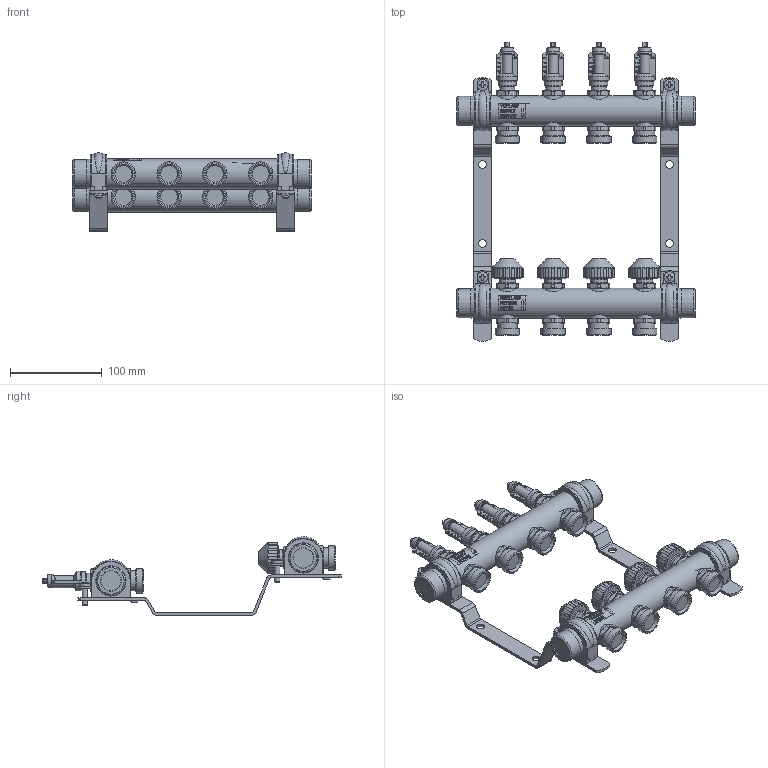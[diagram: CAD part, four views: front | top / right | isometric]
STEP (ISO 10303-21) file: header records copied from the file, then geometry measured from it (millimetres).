
FILE_DESCRIPTION((''),'2;1');
FILE_NAME('C:\Users\duckj\Desktop\10026186.stp','2016-10-27T14:03:04',('duckj'),(''),'Autodesk Inventor 2013','Autodesk Inventor 2013','');
FILE_SCHEMA(('CONFIG_CONTROL_DESIGN'));
Length unit declared in the file: millimetre
Products named in the file (4): 26102016_004-K; 26102016_005; 27102016_005; 27102016_006
Assembly tree (4 placements, depth 2):
  26102016_004-K
    26102016_005  x2
    27102016_005
    27102016_006
Bounding box: 260 x 325.94 x 85.69 mm (x, y, z)
Volume: 727684.8 mm3; surface area: 157720.5 mm2
Topology: 4 solids, 4 shells, 2628 faces, 7014 edges, 4555 vertices
Faces by surface type: plane 1423, cylinder 475, bspline 418, cone 256, torus 52, sphere 4
Full cylindrical faces by diameter (mm): 3 x4, 6 x8, 8.5 x4, 12 x4, 15 x4, 15.5 x4, 16.5 x4, 18 x4, 19.5 x4, 21.8 x16, 22 x28, 26.441 x8, 31.8 x4, 33 x4, 33.7 x4
Entity records: 132234 total; most frequent: CARTESIAN_POINT 71932, ORIENTED_EDGE 12812, DIRECTION 10401, EDGE_CURVE 6406, VERTEX_POINT 4263, AXIS2_PLACEMENT_3D 3483, VECTOR 3435, LINE 3435
